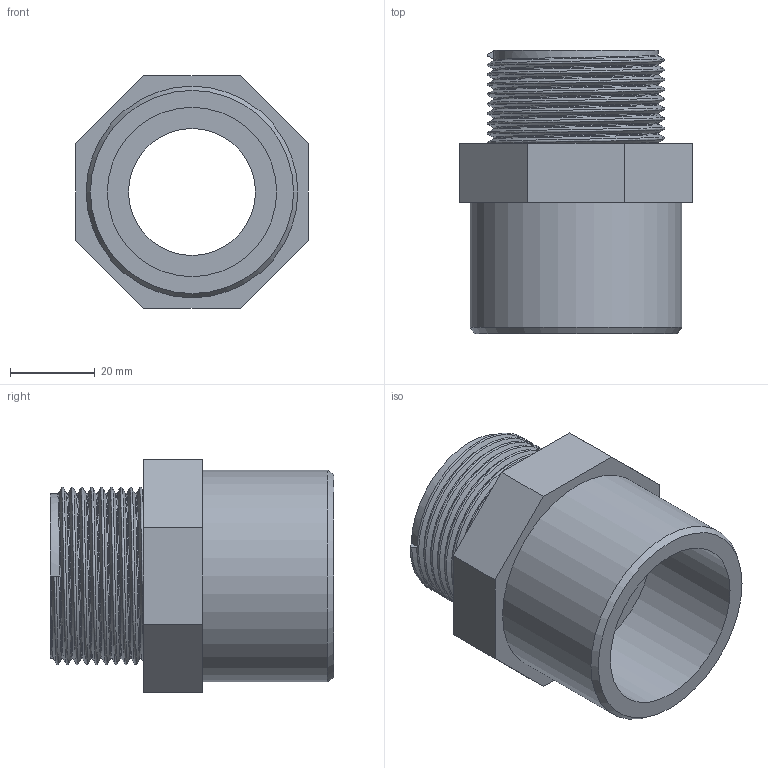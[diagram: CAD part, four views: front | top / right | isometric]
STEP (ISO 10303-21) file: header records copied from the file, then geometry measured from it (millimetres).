
FILE_DESCRIPTION(/* description */ ('PVC adattatore incollaggio-filettatura BSP maschio'),/* implementation_level */ '2;1');
FILE_NAME(/* name */ 'C:\Users\POLYPIPE\Desktop\DATASET INVENTOR\LIBRERIA EFFAST\RACCORDI 3DxWEB\RGR\3D_RGRAMG\3D_RGRAMG040E.stp',/* time_stamp */ '2018-01-19T17:35:53+01:00',/* author */ ('POLYPIPE'),/* organization */ ('Polypipe Italia s.r.l.'),/* preprocessor_version */ 'ST-DEVELOPER v16.1',/* originating_system */ 'Autodesk Inventor 2016',/* authorisation */ '');
FILE_SCHEMA (('CONFIG_CONTROL_DESIGN'));
Length unit declared in the file: millimetre
Products named in the file (1): 3D_RGRAMG
Bounding box: 55 x 67 x 55 mm (x, y, z)
Volume: 60958.3 mm3; surface area: 22710.8 mm2
Topology: 1 solids, 1 shells, 26 faces, 56 edges, 36 vertices
Faces by surface type: plane 15, cylinder 5, bspline 5, cone 1
Full cylindrical faces by diameter (mm): 30 x1, 31 x1, 38.952 x1, 40 x1, 50 x1
Entity records: 4147 total; most frequent: CARTESIAN_POINT 3594, ORIENTED_EDGE 102, DIRECTION 97, EDGE_CURVE 51, EDGE_LOOP 37, VERTEX_POINT 36, AXIS2_PLACEMENT_3D 35, LINE 27
